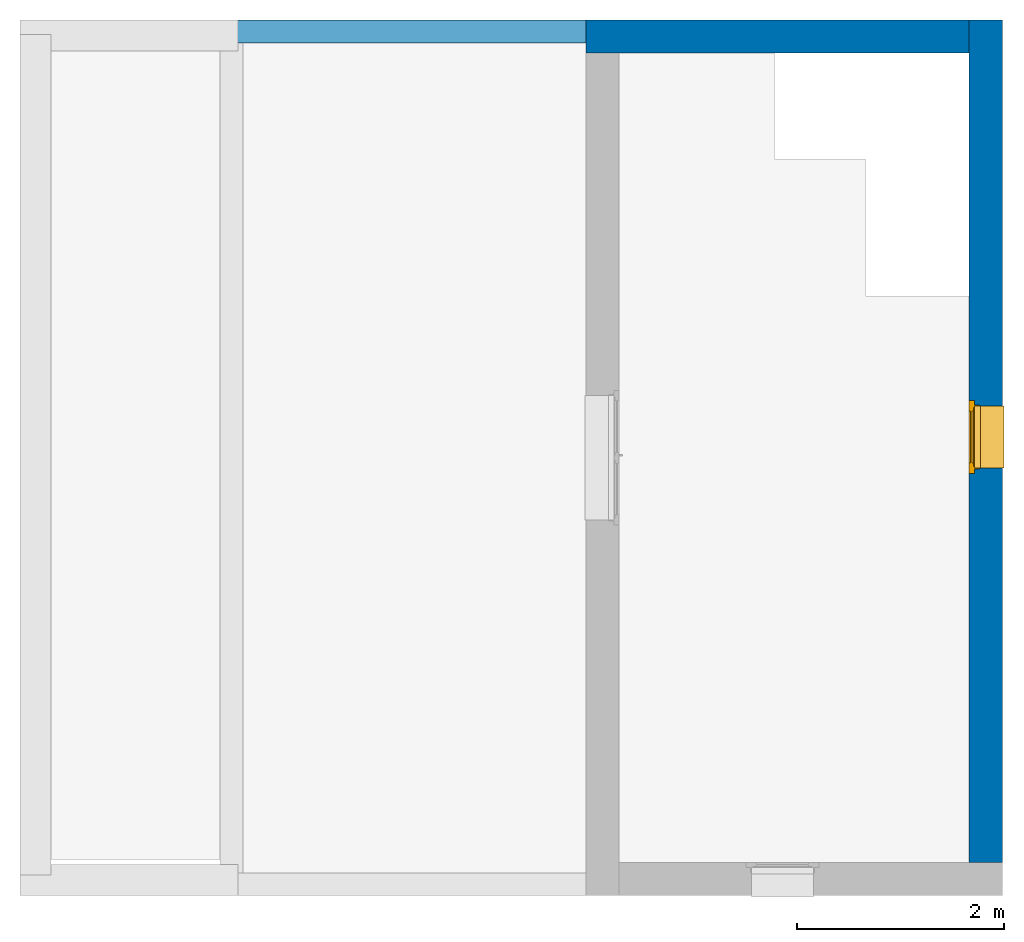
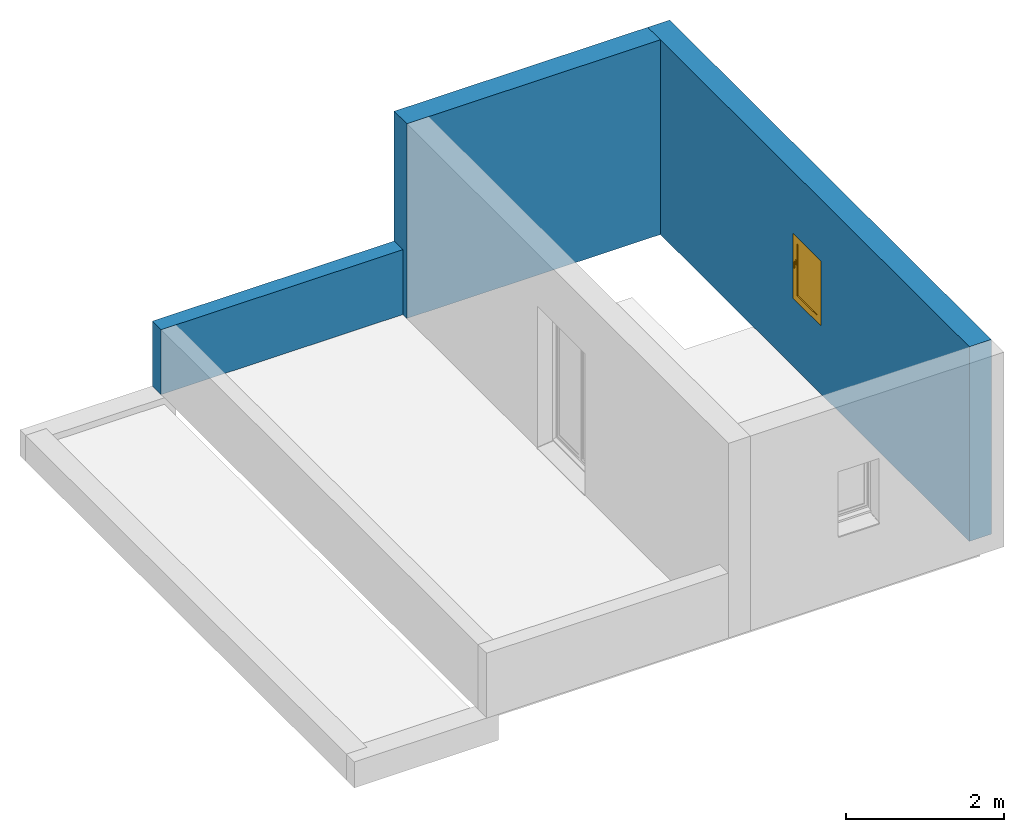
# One storey, part 2 of 3: 3 walls, 1 window, 1 opening.
"""IFC2X3 building model written with IfcOpenShell, lengths in metres."""

from ifc_helpers import new_model, entity, si_unit, converted_unit, derived_unit, direction, frame, frame_2d, origin, place, context, subcontext, project, spatial, rectangle, extrude, faceted_brep, source, transform, mapped, material, material_list, layer, layer_set, layer_usage, type_object, type_shapes, element, fill, save


model = new_model("IFC2X3")

# Units and contexts
model_context = context("Model", 3, precision=1e-05, world=origin(), true_north=direction((6.12303176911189e-17, 1.0)))
context_of_model = context(None, 3, precision=1e-05, world=origin(), true_north=direction((6.12303176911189e-17, 1.0)))
body_context = subcontext(model_context, "Body", "Model", "MODEL_VIEW")
ifc_project = project(units=[si_unit("LENGTHUNIT", "METRE"), si_unit("AREAUNIT", "SQUARE_METRE"), si_unit("VOLUMEUNIT", "CUBIC_METRE"), converted_unit("PLANEANGLEUNIT", "DEGREE", entity("IfcRatioMeasure", 0.0174532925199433), si_unit("PLANEANGLEUNIT", "RADIAN"), dimensions=[0, 0, 0, 0, 0, 0, 0]), si_unit("MASSUNIT", "GRAM", prefix="KILO"), si_unit("TIMEUNIT", "SECOND"), si_unit("FREQUENCYUNIT", "HERTZ"), si_unit("THERMODYNAMICTEMPERATUREUNIT", "DEGREE_CELSIUS"), derived_unit("THERMALTRANSMITTANCEUNIT", [(si_unit("MASSUNIT", "GRAM", prefix="KILO"), 1), (si_unit("THERMODYNAMICTEMPERATUREUNIT", "KELVIN"), -1), (si_unit("TIMEUNIT", "SECOND"), -3)]), derived_unit("VOLUMETRICFLOWRATEUNIT", [(si_unit("LENGTHUNIT", "METRE"), 3), (si_unit("TIMEUNIT", "SECOND"), -1)]), si_unit("ELECTRICCURRENTUNIT", "AMPERE"), si_unit("ELECTRICVOLTAGEUNIT", "VOLT"), si_unit("POWERUNIT", "WATT"), si_unit("FORCEUNIT", "NEWTON", prefix="KILO"), si_unit("ILLUMINANCEUNIT", "LUX"), si_unit("LUMINOUSFLUXUNIT", "LUMEN"), si_unit("LUMINOUSINTENSITYUNIT", "CANDELA"), si_unit("PRESSUREUNIT", "PASCAL")], contexts=[model_context, context_of_model])

# Site, building, storey
site_placement = place(None, origin())
site = spatial("IfcSite", under=ifc_project, at=site_placement, Name="Default", CompositionType="ELEMENT")
building_placement = place(site_placement, origin())
building = spatial("IfcBuilding", under=site, at=building_placement, CompositionType="ELEMENT")
storey_placement = place(building_placement, frame((0.0, 0.0, 3.0)))
storey = spatial("IfcBuildingStorey", under=building, at=storey_placement, Name="Niveau 1", CompositionType="ELEMENT", Elevation=2.99999999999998)

# Wall, opening, window
ifc_material_1 = material(Name="Maçonnerie - Enduit")
ifc_layer_1 = layer(ifc_material_1, 0.02)
ifc_material_2 = material(Name="Blocs béton manufacturés")
ifc_layer_2 = layer(ifc_material_2, 0.2)
ifc_material_3 = material(Name="Maçonnerie - Isolant")
ifc_layer_3 = layer(ifc_material_3, 0.1)
ifc_layer_set_1 = layer_set([ifc_layer_1, ifc_layer_2, ifc_layer_3], Name="Mur de base:Ext. Parpaing 20 + Isolant 10")
ifc_layer_usage_1 = layer_usage(ifc_layer_set_1, "AXIS2", "NEGATIVE", 0.16)
wall_type_1 = type_object("IfcWallType", Name="Mur de base:Ext. Parpaing 20 + Isolant 10", PredefinedType="NOTDEFINED")
wall_1_placement = place(storey_placement, frame((-2.0824259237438, 5.21538687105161, 0.0), z_axis=(0.0, 0.0, 1.0), x_axis=(0.0, -1.0, 0.0)))
wall_1 = element("IfcWallStandardCase", 1, at=wall_1_placement, inside=storey, type_object=wall_type_1, material=ifc_layer_usage_1, Name="Mur de base:Ext. Parpaing 20 + Isolant 10", ObjectType="Mur de base:Ext. Parpaing 20 + Isolant 10", context=body_context, shape_type="SweptSolid", body=[
    extrude(rectangle(XDim=8.12, YDim=0.32, at=frame_2d((4.06, 0.0), x_axis=(-1.0, 0.0))), origin(), (0.0, 0.0, 1.0), 3.0),
])
opening_placement = place(wall_1_placement, frame((4.37, -0.5, 0.974039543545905), z_axis=(0.0, 0.0, 1.0), x_axis=(0.0, 1.0, 0.0)))
opening = element("IfcOpeningElement", 2, at=opening_placement, cuts=wall_1, Name="Mur de base:Ext. Parpaing 20 + Isolant 10", ObjectType="Opening", context=body_context, shape_type="Brep", body=[
    faceted_brep([(0.419999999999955, 0.649999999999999, 0.0759604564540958), (0.440000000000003, 0.649999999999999, 0.0759604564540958), (0.440000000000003, 0.649999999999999, 1.0259604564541), (1.0, 0.649999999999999, 1.0259604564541), (1.0, 0.649999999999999, 0.0), (0.419999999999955, 0.649999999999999, 0.0609604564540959), (0.0, 0.0500000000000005, 0.0759604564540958), (0.34, 0.05, 0.0759604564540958), (0.34, 0.05, 1.0259604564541), (0.0, 0.0500000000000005, 1.0259604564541), (0.0, 0.65, 0.0759604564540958), (0.340000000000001, 0.65, 0.0759604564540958), (0.340000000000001, 0.699999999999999, 0.0759604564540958), (0.39, 0.699999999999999, 0.0759604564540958), (0.39, 0.659999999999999, 0.0759604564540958), (0.440000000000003, 0.659999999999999, 0.0759604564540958), (0.419999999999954, 0.0499999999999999, 0.0759604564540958), (0.440000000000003, 0.0499999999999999, 0.0759604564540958), (0.440000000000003, 0.0399999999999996, 0.0759604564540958), (0.39, 0.0399999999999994, 0.0759604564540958), (0.39, 0.0, 0.0759604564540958), (0.340000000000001, 0.0, 0.0759604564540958), (0.0, 0.65, 1.0259604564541), (0.440000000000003, 0.05, 1.0259604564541), (1.0, 0.0499999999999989, 1.0259604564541), (1.0, 0.0499999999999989, 0.0), (0.419999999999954, 0.0499999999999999, 0.0609604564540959), (0.340000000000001, 0.699999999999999, 1.07596045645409), (0.39, 0.699999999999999, 1.07596045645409), (0.39, 0.0, 1.07596045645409), (0.39, 0.0399999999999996, 1.0359604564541), (0.39, 0.659999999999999, 1.0359604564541), (0.440000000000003, 0.659999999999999, 1.0359604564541), (0.440000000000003, 0.0399999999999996, 1.0359604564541), (0.340000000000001, 0.65, 1.0259604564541), (0.340000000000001, 0.0, 1.0759604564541)], [[[0, 1, 2, 3, 4, 5]], [[6, 7, 8, 9]], [[10, 11, 12, 13, 14, 15, 1, 0, 16, 17, 18, 19, 20, 21, 7, 6]], [[10, 6, 9, 22]], [[3, 2, 23, 24]], [[3, 24, 25, 4]], [[4, 25, 26, 5]], [[5, 26, 16, 0]], [[12, 27, 28, 13]], [[13, 28, 29, 20, 19, 30, 31, 14]], [[14, 31, 32, 15]], [[15, 32, 33, 18, 17, 23, 2, 1]], [[11, 34, 8, 7, 21, 35, 27, 12]], [[27, 35, 29, 28]], [[30, 33, 32, 31]], [[29, 35, 21, 20]], [[19, 18, 33, 30]], [[9, 8, 34, 22]], [[24, 23, 17, 16, 26, 25]], [[22, 34, 11, 10]]]),
])
ifc_material_4 = material(Name="Fenêtre - Poignée")
ifc_material_5 = material(Name="Fenêtre - Appui")
ifc_material_6 = material(Name="Fenêtre - Vitrage")
ifc_material_7 = material(Name="Fenêtre - Cadre")
ifc_material_list_1 = material_list([ifc_material_4, ifc_material_5, ifc_material_6, ifc_material_7])
ifc_material_list_2 = material_list([ifc_material_4, ifc_material_5, ifc_material_6, ifc_material_7])
window_style = type_object("IfcWindowStyle", Name="0.60 m x 0.95 m - Appui en aluminium", ConstructionType="NOTDEFINED", OperationType="SINGLE_PANEL", ParameterTakesPrecedence=False, Sizeable=False, material=ifc_material_list_2)
shared_shape = source(origin(), body_context, "Body", "Brep", [
    faceted_brep([(0.0806460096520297, -0.66600000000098, 0.697994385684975), (0.08203392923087, -0.66600000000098, 0.696606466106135), (0.08203392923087, -0.66600000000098, 0.68529275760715), (0.0806676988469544, -0.66600000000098, 0.683926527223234), (0.0693323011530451, -0.66600000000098, 0.683926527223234), (0.0679660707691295, -0.66600000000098, 0.68529275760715), (0.0679660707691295, -0.66600000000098, 0.696606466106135), (0.0693539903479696, -0.66600000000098, 0.697994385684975), (0.0806460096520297, -0.678913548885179, 0.697994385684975), (0.08203392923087, -0.67833865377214, 0.696606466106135), (0.08203392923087, -0.69164600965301, 0.683299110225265), (0.08203392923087, -0.691646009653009, 0.595960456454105), (0.08203392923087, -0.680332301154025, 0.595960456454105), (0.08203392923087, -0.680332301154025, 0.67861281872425), (0.08203392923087, -0.673652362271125, 0.68529275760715), (0.0806676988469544, -0.673086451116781, 0.683926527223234), (0.0693323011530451, -0.673086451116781, 0.683926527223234), (0.0679660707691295, -0.673652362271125, 0.68529275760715), (0.0679660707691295, -0.680332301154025, 0.67861281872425), (0.0679660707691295, -0.680332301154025, 0.595960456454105), (0.0679660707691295, -0.691646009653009, 0.595960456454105), (0.0679660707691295, -0.69164600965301, 0.683299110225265), (0.0679660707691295, -0.67833865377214, 0.696606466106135), (0.0693539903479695, -0.678913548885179, 0.697994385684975), (0.0806460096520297, -0.69303392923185, 0.683874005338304), (0.0806676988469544, -0.678966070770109, 0.678046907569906), (0.0693323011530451, -0.678966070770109, 0.678046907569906), (0.0693539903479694, -0.69303392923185, 0.683874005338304), (0.0806460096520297, -0.69303392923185, 0.595960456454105), (0.0693539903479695, -0.69303392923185, 0.595960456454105), (0.0693323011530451, -0.678966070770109, 0.595960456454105), (0.0806676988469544, -0.678966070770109, 0.595960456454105)], [[[0, 1, 2, 3, 4, 5, 6, 7]], [[1, 0, 8, 9]], [[2, 1, 9, 10, 11, 12, 13, 14]], [[3, 2, 14, 15]], [[4, 3, 15, 16]], [[5, 4, 16, 17]], [[6, 5, 17, 18, 19, 20, 21, 22]], [[7, 6, 22, 23]], [[0, 7, 23, 8]], [[9, 8, 24, 10]], [[15, 14, 13, 25]], [[16, 15, 25, 26]], [[17, 16, 26, 18]], [[23, 22, 21, 27]], [[8, 23, 27, 24]], [[28, 29, 20, 19, 30, 31, 12, 11]], [[10, 24, 28, 11]], [[25, 13, 12, 31]], [[26, 25, 31, 30]], [[18, 26, 30, 19]], [[27, 21, 20, 29]], [[24, 27, 29, 28]]]),
    faceted_brep([(0.0820000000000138, -0.666000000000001, 0.715960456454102), (0.0679999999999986, -0.666000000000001, 0.715960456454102), (0.0629999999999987, -0.666000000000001, 0.710960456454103), (0.0629999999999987, -0.666000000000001, 0.640960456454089), (0.0679999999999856, -0.666000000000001, 0.635960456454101), (0.0820000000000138, -0.666000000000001, 0.635960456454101), (0.0869999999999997, -0.666000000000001, 0.640960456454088), (0.0869999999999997, -0.666000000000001, 0.710960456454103), (0.0820000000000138, -0.660000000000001, 0.715960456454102), (0.0869999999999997, -0.660000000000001, 0.710960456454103), (0.0869999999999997, -0.660000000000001, 0.640960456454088), (0.0820000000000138, -0.660000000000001, 0.635960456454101), (0.0679999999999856, -0.660000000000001, 0.635960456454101), (0.0629999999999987, -0.660000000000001, 0.640960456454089), (0.0629999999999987, -0.660000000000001, 0.710960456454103), (0.0679999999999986, -0.660000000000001, 0.715960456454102)], [[[0, 1, 2, 3, 4, 5, 6, 7]], [[8, 9, 10, 11, 12, 13, 14, 15]], [[1, 0, 8, 15]], [[2, 1, 15, 14]], [[3, 2, 14, 13]], [[4, 3, 13, 12]], [[5, 4, 12, 11]], [[6, 5, 11, 10]], [[7, 6, 10, 9]], [[0, 7, 9, 8]]]),
    faceted_brep([(0.649999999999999, -0.324999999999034, 0.0394140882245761), (0.649999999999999, -0.574999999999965, 0.0656901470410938), (0.649999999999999, -0.574999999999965, 0.0759604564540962), (0.649999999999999, -0.579999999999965, 0.0759604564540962), (0.649999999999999, -0.579999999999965, 0.0609604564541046), (0.649999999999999, -0.329999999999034, 0.0346843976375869), (0.649999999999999, -0.329999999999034, 0.0243838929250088), (0.649999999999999, -0.324999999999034, 0.0238583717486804), (0.0499999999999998, -0.324999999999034, 0.0394140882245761), (0.0499999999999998, -0.324999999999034, 0.0238583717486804), (0.0499999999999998, -0.329999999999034, 0.0243838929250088), (0.0499999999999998, -0.329999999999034, 0.0346843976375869), (0.0499999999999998, -0.579999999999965, 0.0609604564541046), (0.0499999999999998, -0.579999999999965, 0.0759604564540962), (0.0499999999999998, -0.574999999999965, 0.0759604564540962), (0.0499999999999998, -0.574999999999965, 0.0656901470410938)], [[[0, 1, 2, 3, 4, 5, 6, 7]], [[8, 9, 10, 11, 12, 13, 14, 15]], [[1, 0, 8, 15]], [[2, 1, 15, 14]], [[3, 2, 14, 13]], [[4, 3, 13, 12]], [[5, 4, 12, 11]], [[6, 5, 11, 10]], [[7, 6, 10, 9]], [[0, 7, 9, 8]]]),
    faceted_brep([(0.05, -0.324999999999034, 0.0408400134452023), (0.05, -0.324999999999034, 0.0394140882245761), (0.0499999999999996, -0.574999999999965, 0.0656901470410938), (0.0499999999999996, -0.574999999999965, 0.0707176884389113), (0.05, -0.328581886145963, 0.0448181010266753), (0.05, -0.326027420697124, 0.0435165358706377), (0.0549999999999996, -0.574999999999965, 0.0707176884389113), (0.0549999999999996, -0.574999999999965, 0.0656901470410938), (0.055, -0.324999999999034, 0.0394140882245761), (0.055, -0.324999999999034, 0.0408400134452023), (0.055, -0.326027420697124, 0.0435165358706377), (0.055, -0.328581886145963, 0.0448181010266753)], [[[0, 1, 2, 3, 4, 5]], [[6, 7, 8, 9, 10, 11]], [[2, 1, 8, 7]], [[3, 2, 7, 6]], [[4, 3, 6, 11]], [[4, 11, 10, 5]], [[10, 9, 0, 5]], [[1, 0, 9, 8]]]),
    faceted_brep([(0.645, -0.324999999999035, 0.0408400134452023), (0.645, -0.324999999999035, 0.0394140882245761), (0.644999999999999, -0.574999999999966, 0.0656901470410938), (0.644999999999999, -0.574999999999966, 0.0707176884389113), (0.645, -0.328581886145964, 0.0448181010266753), (0.645, -0.326027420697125, 0.0435165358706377), (0.649999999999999, -0.574999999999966, 0.0707176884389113), (0.649999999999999, -0.574999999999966, 0.0656901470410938), (0.65, -0.324999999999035, 0.0394140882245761), (0.65, -0.324999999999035, 0.0408400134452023), (0.65, -0.326027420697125, 0.0435165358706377), (0.65, -0.328581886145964, 0.0448181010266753)], [[[0, 1, 2, 3, 4, 5]], [[6, 7, 8, 9, 10, 11]], [[2, 1, 8, 7]], [[3, 2, 7, 6]], [[4, 3, 6, 11]], [[4, 11, 10, 5]], [[10, 9, 0, 5]], [[1, 0, 9, 8]]]),
    faceted_brep([(0.0999999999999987, -0.634000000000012, 0.175960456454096), (0.0999999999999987, -0.634000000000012, 0.975960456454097), (0.6, -0.634000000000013, 0.975960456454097), (0.6, -0.634000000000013, 0.175960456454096), (0.0999999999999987, -0.646000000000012, 0.175960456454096), (0.0999999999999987, -0.646000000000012, 0.975960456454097), (0.6, -0.646000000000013, 0.975960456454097), (0.6, -0.646000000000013, 0.175960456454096)], [[[0, 1, 2, 3]], [[1, 0, 4, 5]], [[3, 2, 6, 7]], [[0, 3, 7, 4]], [[4, 7, 6, 5]], [[2, 1, 5, 6]]]),
    faceted_brep([(0.099999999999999, -0.620000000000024, 0.975960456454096), (0.0999999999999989, -0.660000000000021, 0.975960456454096), (0.0999999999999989, -0.660000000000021, 0.175960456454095), (0.0999999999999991, -0.620000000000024, 0.175960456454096), (0.6, -0.660000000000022, 0.175960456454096), (0.6, -0.620000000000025, 0.175960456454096), (0.6, -0.660000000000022, 0.975960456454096), (0.649999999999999, -0.660000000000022, 0.125960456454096), (0.649999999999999, -0.660000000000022, 1.0259604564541), (0.0499999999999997, -0.660000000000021, 1.0259604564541), (0.0499999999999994, -0.660000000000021, 0.125960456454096), (0.6, -0.620000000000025, 0.975960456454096), (0.0499999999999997, -0.620000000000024, 0.125960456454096), (0.0499999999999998, -0.620000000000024, 1.0259604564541), (0.649999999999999, -0.620000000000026, 1.0259604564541), (0.649999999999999, -0.620000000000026, 0.125960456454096)], [[[0, 1, 2, 3]], [[3, 2, 4, 5]], [[2, 1, 6, 4], [7, 8, 9, 10]], [[5, 4, 6, 11]], [[5, 11, 0, 3], [12, 13, 14, 15]], [[9, 13, 12, 10]], [[10, 12, 15, 7]], [[7, 15, 14, 8]], [[11, 6, 1, 0]], [[8, 14, 13, 9]]], outer=[[True], [True], [False, True], [True], [False, True], [True], [True], [True], [True], [True]]),
    faceted_brep([(0.0, -0.660000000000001, 0.0759604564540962), (0.0, -0.610000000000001, 0.0759604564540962), (0.0499999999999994, -0.610000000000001, 0.0759604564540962), (0.0499999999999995, -0.560000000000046, 0.0759604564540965), (0.649999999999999, -0.560000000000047, 0.0759604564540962), (0.649999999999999, -0.610000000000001, 0.0759604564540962), (0.699999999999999, -0.610000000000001, 0.0759604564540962), (0.699999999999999, -0.660000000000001, 0.0759604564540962), (0.0, -0.660000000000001, 1.0759604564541), (0.0, -0.610000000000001, 1.0759604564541), (0.699999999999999, -0.610000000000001, 1.0759604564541), (0.649999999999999, -0.610000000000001, 0.1153365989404), (0.0499999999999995, -0.610000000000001, 0.115336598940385), (0.0649999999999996, -0.610000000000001, 1.0109604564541), (0.0649999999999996, -0.610000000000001, 0.140960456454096), (0.634999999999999, -0.610000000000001, 0.140960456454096), (0.634999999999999, -0.610000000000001, 1.0109604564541), (0.0499999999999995, -0.550000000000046, 0.0992596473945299), (0.0499999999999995, -0.550000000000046, 0.0709604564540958), (0.0499999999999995, -0.560000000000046, 0.0709604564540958), (0.649999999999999, -0.560000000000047, 0.0709604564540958), (0.649999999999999, -0.550000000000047, 0.0709604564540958), (0.649999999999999, -0.550000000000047, 0.0992596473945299), (0.699999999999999, -0.660000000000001, 1.0759604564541), (0.649999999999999, -0.660000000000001, 1.0259604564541), (0.649999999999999, -0.660000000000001, 0.125960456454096), (0.0499999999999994, -0.66, 0.125960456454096), (0.0499999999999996, -0.660000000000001, 1.0259604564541), (0.0649999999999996, -0.620000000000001, 1.0109604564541), (0.0649999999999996, -0.620000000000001, 0.140960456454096), (0.634999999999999, -0.620000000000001, 0.140960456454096), (0.634999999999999, -0.620000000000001, 1.0109604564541), (0.649999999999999, -0.620000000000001, 1.0259604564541), (0.0499999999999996, -0.620000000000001, 1.0259604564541), (0.0499999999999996, -0.620000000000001, 0.125960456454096), (0.649999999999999, -0.620000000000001, 0.125960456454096)], [[[0, 1, 2, 3, 4, 5, 6, 7]], [[1, 0, 8, 9]], [[1, 9, 10, 6, 5, 11, 12, 2], [13, 14, 15, 16]], [[12, 17, 18, 19, 3, 2]], [[3, 19, 20, 4]], [[4, 20, 21, 22, 11, 5]], [[6, 10, 23, 7]], [[0, 7, 23, 8], [24, 25, 26, 27]], [[13, 28, 29, 14]], [[29, 30, 15, 14]], [[31, 16, 15, 30]], [[17, 12, 11, 22]], [[32, 33, 34, 35], [28, 31, 30, 29]], [[34, 33, 27, 26]], [[26, 25, 35, 34]], [[24, 32, 35, 25]], [[18, 17, 22, 21]], [[19, 18, 21, 20]], [[13, 16, 31, 28]], [[33, 32, 24, 27]], [[10, 9, 8, 23]]]),
    faceted_brep([(0.0499999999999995, -0.559999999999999, 0.0759604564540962), (0.0499999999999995, -0.610000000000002, 0.0759604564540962), (0.0399999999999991, -0.610000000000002, 0.0759604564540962), (0.0399999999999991, -0.559999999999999, 0.0759604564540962), (0.0499999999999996, -0.559999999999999, 1.0259604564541), (0.0499999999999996, -0.610000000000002, 1.0259604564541), (0.649999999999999, -0.610000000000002, 1.0259604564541), (0.649999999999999, -0.610000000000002, 0.0759604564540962), (0.66, -0.610000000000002, 0.0759604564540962), (0.66, -0.610000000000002, 1.0359604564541), (0.0399999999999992, -0.610000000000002, 1.0359604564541), (0.0399999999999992, -0.559999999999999, 1.0359604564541), (0.66, -0.559999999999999, 1.0359604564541), (0.66, -0.559999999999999, 0.0759604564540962), (0.649999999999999, -0.559999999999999, 0.0759604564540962), (0.649999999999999, -0.559999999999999, 1.0259604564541)], [[[0, 1, 2, 3]], [[1, 0, 4, 5]], [[2, 1, 5, 6, 7, 8, 9, 10]], [[3, 2, 10, 11]], [[0, 3, 11, 12, 13, 14, 15, 4]], [[6, 15, 14, 7]], [[14, 13, 8, 7]], [[12, 9, 8, 13]], [[5, 4, 15, 6]], [[11, 10, 9, 12]]]),
])
type_shapes(window_style, [shared_shape])
window_placement = place(opening_placement, frame((1.0, 0.699999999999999, 0.0), z_axis=(0.0, 0.0, 1.0), x_axis=(0.0, -1.0, 0.0)))
window = element("IfcWindow", 3, at=window_placement, inside=storey, type_object=window_style, material=ifc_material_list_1, Name="1 Vantail - Droit:0.60 m x 0.95 m - Appui en aluminium", ObjectType="0.60 m x 0.95 m - Appui en aluminium", OverallHeight=1.08, OverallWidth=0.699999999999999, context=body_context, shape_type="MappedRepresentation", body=[
    mapped(shared_shape, transform((0.0, 0.0, 0.0), scale=1.0)),
])
fill(opening, window)

# Walls
ifc_layer_usage_2 = layer_usage(ifc_layer_set_1, "AXIS2", "NEGATIVE", 0.16)
wall_2_placement = place(storey_placement, frame((-5.93815113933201, 5.05538687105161, 0.0)))
element("IfcWallStandardCase", 4, at=wall_2_placement, inside=storey, type_object=wall_type_1, material=ifc_layer_usage_2, Name="Mur de base:Ext. Parpaing 20 + Isolant 10", ObjectType="Mur de base:Ext. Parpaing 20 + Isolant 10", context=body_context, shape_type="SweptSolid", body=[
    extrude(rectangle(XDim=3.6957252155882, YDim=0.320000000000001, at=frame_2d((1.8478626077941, 0.0), x_axis=(-1.0, 0.0))), origin(), (0.0, 0.0, 1.0), 3.0),
])
ifc_layer_4 = layer(ifc_material_1, 0.02)
ifc_layer_5 = layer(ifc_material_2, 0.2)
ifc_layer_set_2 = layer_set([ifc_layer_4, ifc_layer_5], Name="Mur de base:Ext. Parpaing 20 + Isolant 11")
ifc_layer_usage_3 = layer_usage(ifc_layer_set_2, "AXIS2", "NEGATIVE", 0.11)
wall_type_2 = type_object("IfcWallType", Name="Mur de base:Ext. Parpaing 20 + Isolant 11", PredefinedType="STANDARD", material=ifc_layer_set_2)
wall_3_placement = place(storey_placement, frame((-9.46242592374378, 5.10538687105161, 0.0)))
element("IfcWallStandardCase", 5, at=wall_3_placement, inside=storey, type_object=wall_type_2, material=ifc_layer_usage_3, Name="Mur de base:Ext. Parpaing 20 + Isolant 11", ObjectType="Mur de base:Ext. Parpaing 20 + Isolant 11", context=body_context, shape_type="SweptSolid", body=[
    extrude(rectangle(XDim=3.52427478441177, YDim=0.22, at=frame_2d((1.76213739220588, 0.0), x_axis=(-1.0, 0.0))), origin(), (0.0, 0.0, 1.0), 1.0),
])

save(model, "model.ifc")
